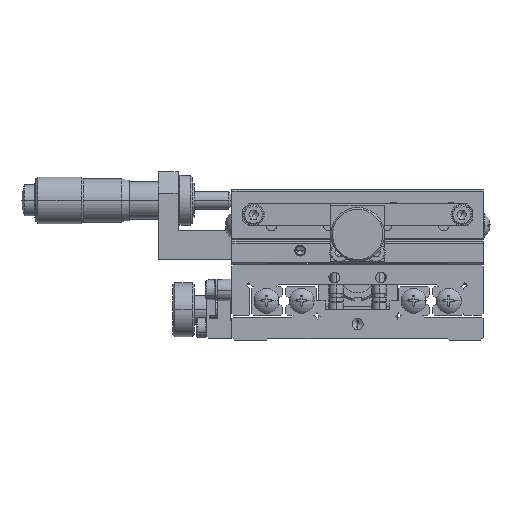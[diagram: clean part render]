
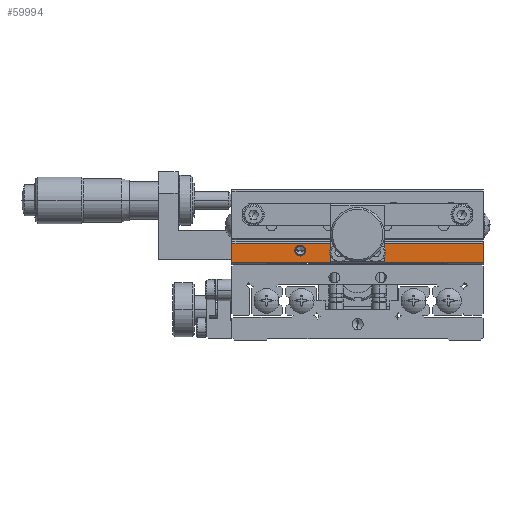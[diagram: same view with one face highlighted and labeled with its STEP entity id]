
A CAD part, front view. The second image highlights one B-rep face of the part: STEP entity #59994.
In plain terms, the highlighted planar face has unit normal (0, -1, 0).
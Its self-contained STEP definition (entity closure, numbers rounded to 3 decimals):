
#708 = CARTESIAN_POINT ( 'NONE',  ( -14.5, -35., 18. ) ) ;
#709 = DIRECTION ( 'NONE',  ( 1., 0., 0. ) ) ;
#710 = DIRECTION ( 'NONE',  ( 0., -1., 0. ) ) ;
#711 = AXIS2_PLACEMENT_3D ( 'NONE', #718, #710, #709 ) ;
#712 = CIRCLE ( 'NONE', #711, 1.5 ) ;
#718 = CARTESIAN_POINT ( 'NONE',  ( -16., -35., 18. ) ) ;
#720 = CARTESIAN_POINT ( 'NONE',  ( -17.5, -35., 18. ) ) ;
#44656 = VERTEX_POINT ( 'NONE', #720 ) ;
#44663 = EDGE_CURVE ( 'NONE', #44656, #44667, #712, .T. ) ;
#44667 = VERTEX_POINT ( 'NONE', #708 ) ;
#59714 = VERTEX_POINT ( 'NONE', #81191 ) ;
#59723 = EDGE_CURVE ( 'NONE', #59725, #59714, #81173, .T. ) ;
#59725 = VERTEX_POINT ( 'NONE', #81159 ) ;
#59845 = EDGE_CURVE ( 'NONE', #59714, #60087, #81637, .T. ) ;
#59937 = EDGE_CURVE ( 'NONE', #59942, #60097, #81901, .T. ) ;
#59942 = VERTEX_POINT ( 'NONE', #81885 ) ;
#59945 = ORIENTED_EDGE ( 'NONE', *, *, #59947, .F. ) ;
#59947 = EDGE_CURVE ( 'NONE', #59952, #59942, #81877, .T. ) ;
#59952 = VERTEX_POINT ( 'NONE', #81863 ) ;
#59955 = ORIENTED_EDGE ( 'NONE', *, *, #59957, .T. ) ;
#59957 = EDGE_CURVE ( 'NONE', #59952, #59961, #81851, .T. ) ;
#59961 = VERTEX_POINT ( 'NONE', #81843 ) ;
#59965 = ORIENTED_EDGE ( 'NONE', *, *, #59969, .F. ) ;
#59969 = EDGE_CURVE ( 'NONE', #60027, #59961, #81951, .T. ) ;
#59994 = ADVANCED_FACE ( 'NONE', ( #81972, #81970 ), #82084, .T. ) ;
#59997 = EDGE_LOOP ( 'NONE', ( #60001, #60012 ) ) ;
#60001 = ORIENTED_EDGE ( 'NONE', *, *, #60005, .F. ) ;
#60005 = EDGE_CURVE ( 'NONE', #44667, #44656, #82045, .T. ) ;
#60012 = ORIENTED_EDGE ( 'NONE', *, *, #44663, .F. ) ;
#60015 = EDGE_LOOP ( 'NONE', ( #60018, #60091, #60102, #59945, #59955, #59965, #60031, #60041 ) ) ;
#60018 = ORIENTED_EDGE ( 'NONE', *, *, #59845, .T. ) ;
#60027 = VERTEX_POINT ( 'NONE', #82096 ) ;
#60031 = ORIENTED_EDGE ( 'NONE', *, *, #60035, .F. ) ;
#60035 = EDGE_CURVE ( 'NONE', #59725, #60027, #82202, .T. ) ;
#60041 = ORIENTED_EDGE ( 'NONE', *, *, #59723, .T. ) ;
#60087 = VERTEX_POINT ( 'NONE', #82278 ) ;
#60091 = ORIENTED_EDGE ( 'NONE', *, *, #60095, .T. ) ;
#60095 = EDGE_CURVE ( 'NONE', #60087, #60097, #82398, .T. ) ;
#60097 = VERTEX_POINT ( 'NONE', #82383 ) ;
#60102 = ORIENTED_EDGE ( 'NONE', *, *, #59937, .F. ) ;
#81159 = CARTESIAN_POINT ( 'NONE',  ( -35., -35., 20. ) ) ;
#81164 = DIRECTION ( 'NONE',  ( 0., 0., -1. ) ) ;
#81166 = VECTOR ( 'NONE', #81164, 1000. ) ;
#81169 = CARTESIAN_POINT ( 'NONE',  ( -35., -35., 20. ) ) ;
#81173 = LINE ( 'NONE', #81169, #81166 ) ;
#81191 = CARTESIAN_POINT ( 'NONE',  ( -35., -35., 14.8 ) ) ;
#81634 = DIRECTION ( 'NONE',  ( 1., 0., 0. ) ) ;
#81635 = VECTOR ( 'NONE', #81634, 1000. ) ;
#81636 = CARTESIAN_POINT ( 'NONE',  ( -35., -35., 14.8 ) ) ;
#81637 = LINE ( 'NONE', #81636, #81635 ) ;
#81843 = CARTESIAN_POINT ( 'NONE',  ( 35., -35., 14.8 ) ) ;
#81846 = DIRECTION ( 'NONE',  ( 1., 0., 0. ) ) ;
#81847 = VECTOR ( 'NONE', #81846, 1000. ) ;
#81849 = CARTESIAN_POINT ( 'NONE',  ( -35., -35., 14.8 ) ) ;
#81851 = LINE ( 'NONE', #81849, #81847 ) ;
#81863 = CARTESIAN_POINT ( 'NONE',  ( 7.5, -35., 14.8 ) ) ;
#81873 = DIRECTION ( 'NONE',  ( 0., 0., 1. ) ) ;
#81874 = VECTOR ( 'NONE', #81873, 1000. ) ;
#81876 = CARTESIAN_POINT ( 'NONE',  ( 7.5, -35., 20. ) ) ;
#81877 = LINE ( 'NONE', #81876, #81874 ) ;
#81885 = CARTESIAN_POINT ( 'NONE',  ( 7.5, -35., 19.5 ) ) ;
#81897 = DIRECTION ( 'NONE',  ( -1., 0., 0. ) ) ;
#81898 = VECTOR ( 'NONE', #81897, 1000. ) ;
#81900 = CARTESIAN_POINT ( 'NONE',  ( -35., -35., 19.5 ) ) ;
#81901 = LINE ( 'NONE', #81900, #81898 ) ;
#81947 = DIRECTION ( 'NONE',  ( 0., 0., -1. ) ) ;
#81948 = VECTOR ( 'NONE', #81947, 1000. ) ;
#81949 = CARTESIAN_POINT ( 'NONE',  ( 35., -35., 20. ) ) ;
#81951 = LINE ( 'NONE', #81949, #81948 ) ;
#81970 = FACE_OUTER_BOUND ( 'NONE', #60015, .T. ) ;
#81972 = FACE_BOUND ( 'NONE', #59997, .T. ) ;
#82040 = DIRECTION ( 'NONE',  ( 1., 0., 0. ) ) ;
#82042 = DIRECTION ( 'NONE',  ( 0., -1., 0. ) ) ;
#82043 = CARTESIAN_POINT ( 'NONE',  ( -16., -35., 18. ) ) ;
#82044 = AXIS2_PLACEMENT_3D ( 'NONE', #82043, #82042, #82040 ) ;
#82045 = CIRCLE ( 'NONE', #82044, 1.5 ) ;
#82076 = DIRECTION ( 'NONE',  ( 1., 0., 0. ) ) ;
#82078 = DIRECTION ( 'NONE',  ( 0., -1., 0. ) ) ;
#82081 = CARTESIAN_POINT ( 'NONE',  ( -35., -35., 20. ) ) ;
#82082 = AXIS2_PLACEMENT_3D ( 'NONE', #82081, #82078, #82076 ) ;
#82084 = PLANE ( 'NONE',  #82082 ) ;
#82096 = CARTESIAN_POINT ( 'NONE',  ( 35., -35., 20. ) ) ;
#82198 = DIRECTION ( 'NONE',  ( 1., 0., 0. ) ) ;
#82199 = VECTOR ( 'NONE', #82198, 1000. ) ;
#82200 = CARTESIAN_POINT ( 'NONE',  ( -35., -35., 20. ) ) ;
#82202 = LINE ( 'NONE', #82200, #82199 ) ;
#82278 = CARTESIAN_POINT ( 'NONE',  ( -7.5, -35., 14.8 ) ) ;
#82383 = CARTESIAN_POINT ( 'NONE',  ( -7.5, -35., 19.5 ) ) ;
#82392 = DIRECTION ( 'NONE',  ( 0., 0., 1. ) ) ;
#82393 = VECTOR ( 'NONE', #82392, 1000. ) ;
#82396 = CARTESIAN_POINT ( 'NONE',  ( -7.5, -35., 20. ) ) ;
#82398 = LINE ( 'NONE', #82396, #82393 ) ;
